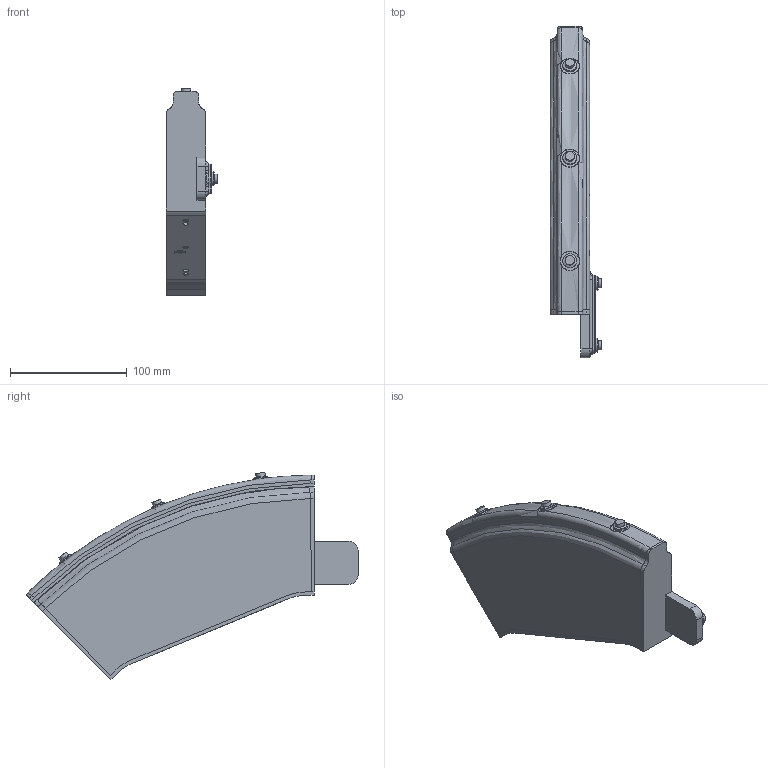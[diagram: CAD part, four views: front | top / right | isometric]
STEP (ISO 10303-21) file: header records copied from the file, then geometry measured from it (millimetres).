
FILE_DESCRIPTION(/* description */ (''),/* implementation_level */ '2;1');
FILE_NAME(/* name */ 'C:\_Vault-Workspace\CAD-Daten\XTS\87_Baukasten\Hygienic\Motormodule\Public 218300 ATH2040-0250-0002.stp',/* time_stamp */ '2022-05-20T14:37:50+02:00',/* author */ ('AndreasSi'),/* organization */ (''),/* preprocessor_version */ 'ST-DEVELOPER v18.1',/* originating_system */ 'Autodesk Inventor 2022',/* authorisation */ '');
FILE_SCHEMA (('AUTOMOTIVE_DESIGN { 1 0 10303 214 3 1 1 }'));
Length unit declared in the file: millimetre
Products named in the file (1): 218300
Bounding box: 44.5 x 284.5 x 177.63 mm (x, y, z)
Volume: 825568.3 mm3; surface area: 87034.8 mm2
Topology: 3 solids, 3 shells, 852 faces, 2230 edges, 1470 vertices
Faces by surface type: plane 525, bspline 224, cylinder 60, cone 23, torus 20
Full cylindrical faces by diameter (mm): 4.134 x3, 5 x2, 8 x5, 12 x10
Entity records: 28562 total; most frequent: CARTESIAN_POINT 8481, ORIENTED_EDGE 4456, DIRECTION 3248, EDGE_CURVE 2228, LINE 1548, VECTOR 1548, VERTEX_POINT 1470, EDGE_LOOP 940
